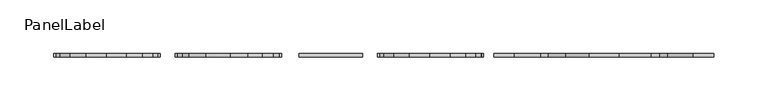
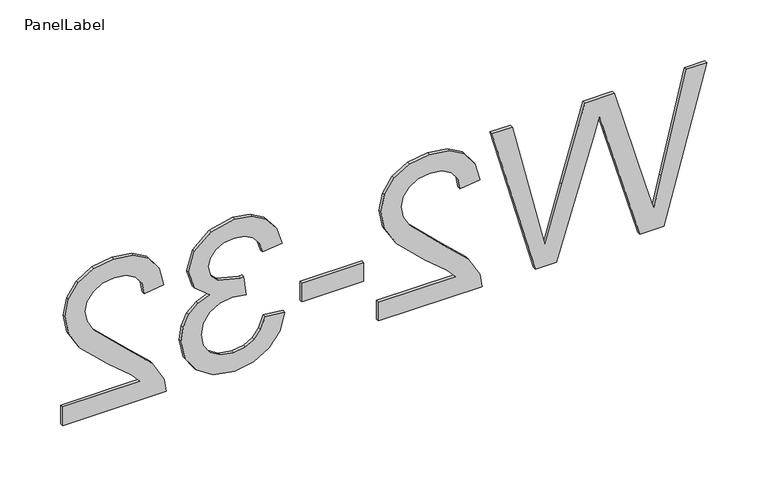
"""IFC4 building model written with IfcOpenShell, lengths in millimetres: fastener geometry, PanelLabel : Miranda."""

from ifc_helpers import new_model, si_unit, frame, origin, place, context, project, spatial, polyline, outline, extrude, source, transform, mapped, element, save


def panellabel_7984cc64(model_context):
    return source(origin(), model_context, "Body", "SweptSolid", [
        extrude(outline(polyline([(1310.9113766, 268.5683654), (1460.9667612, 309.4892308), (1460.9667612, 290.1461538), (1362.3463766, 266.4069231), (1331.9030112, 259.08), (1358.8294535, 251.2401923), (1460.9667612, 221.4928846), (1460.9667612, 193.6139423), (1386.9282035, 171.9995192), (1331.9030112, 155.9169231), (1361.4671458, 148.8098077), (1460.9667612, 124.8507692), (1460.9667612, 105.5076923), (1310.9113766, 146.4651923), (1310.9113766, 166.5043269), (1426.6767612, 202.4795192), (1442.8326266, 207.4984615), (1423.3796458, 213.1401923), (1310.9113766, 245.9281731), (1310.9113766, 268.5683654)])), frame((0.0, 100.80625, 0.0), z_axis=(0.0, 1.0, 0.0), x_axis=(0.0, 0.0, 1.0)), (0.0, 0.0, 1.0), 3.175),
        extrude(outline(polyline([(1329.6682997, -2.3446154), (1310.9113766, -2.3446154), (1310.9113766, 96.1292308), (1323.8433958, 94.1143269), (1343.7543093, 82.7209615), (1365.4969535, 59.2381731), (1396.7462804, 26.8531731), (1407.5168573, 20.7809856), (1417.9943573, 18.7569231), (1427.3865569, 20.6665024), (1435.1943093, 26.3952404), (1440.4559559, 35.2012861), (1442.2098381, 46.3427885), (1440.4971698, 58.0429688), (1435.359165, 67.1329327), (1427.1988045, 72.9990505), (1416.4190689, 75.0276923), (1418.7636843, 93.7846154), (1436.9069775, 89.2373438), (1450.1595497, 79.4055288), (1458.2649583, 64.8020553), (1460.9667612, 45.9398077), (1457.9627227, 26.9401803), (1448.9506073, 12.3641827), (1435.4873862, 3.0910457), (1419.1300304, 0.0), (1401.3439247, 3.33375), (1382.9533477, 14.4157212), (1357.254165, 41.2872115), (1339.211617, 62.865), (1329.6682997, 71.3275962), (1329.6682997, -2.3446154)])), frame((0.0, 100.80625, 0.0), z_axis=(0.0, 1.0, 0.0), x_axis=(0.0, 0.0, 1.0)), (0.0, 0.0, 1.0), 3.175),
        extrude(outline(polyline([(-75.0276923, 103.98125), (-16.4123077, 103.98125), (-16.4123077, 100.80625), (-75.0276923, 100.80625), (-75.0276923, 103.98125)])), frame((0.0, 0.0, 1355.4590689), z_axis=(0.0, 0.0, 1.0), x_axis=(1.0, 0.0, 0.0)), (0.0, 0.0, 1.0), 18.7569231),
        extrude(outline(polyline([(1350.7698381, -91.44), (1353.1144535, -110.1969231), (1341.327266, -114.3961659), (1333.3683958, -120.5462019), (1328.8348622, -128.9492668), (1327.3236843, -139.9075962), (1329.4026987, -152.7663462), (1335.639742, -162.6943269), (1344.9449343, -169.041274), (1356.2283958, -171.1569231), (1366.9394415, -169.0595913), (1375.6264247, -162.7675962), (1381.3826386, -153.2425962), (1383.3013766, -141.44625), (1381.2498381, -128.2944231), (1400.0067612, -130.3825962), (1399.7869535, -133.3866346), (1405.172242, -154.6713462), (1412.0045977, -161.7601442), (1421.7310881, -164.1230769), (1429.8319174, -162.4104087), (1436.4032516, -157.2724038), (1440.7581915, -149.4325962), (1442.2098381, -139.6145192), (1440.7444535, -129.778125), (1436.3482997, -121.7368269), (1429.0213766, -115.8661298), (1418.7636843, -112.5415385), (1421.1082997, -93.7846154), (1437.9510641, -99.3072837), (1450.5258958, -109.1345192), (1458.3565448, -122.5794231), (1460.9667612, -138.9550962), (1455.8195977, -161.5769712), (1441.7519054, -177.403125), (1422.8301266, -182.88), (1405.5385881, -177.6778846), (1393.1194535, -162.2913462), (1388.3752708, -174.0327404), (1380.2973381, -182.7334615), (1369.3252708, -188.11875), (1355.8986843, -189.9138462), (1337.6180112, -186.3236538), (1322.3413766, -175.5530769), (1312.010415, -159.2964663), (1308.5667612, -139.2481731), (1311.5066891, -121.1140385), (1320.3264727, -106.3502885), (1333.8171698, -96.0834375), (1350.7698381, -91.44)])), frame((0.0, 100.80625, 0.0), z_axis=(0.0, 1.0, 0.0), x_axis=(0.0, 0.0, 1.0)), (0.0, 0.0, 1.0), 3.175),
        extrude(outline(polyline([(1329.6682997, -302.4553846), (1310.9113766, -302.4553846), (1310.9113766, -203.9815385), (1323.8433958, -205.9964423), (1343.7543093, -217.3898077), (1365.4969535, -240.8725962), (1396.7462804, -273.2575962), (1407.5168573, -279.3297837), (1417.9943573, -281.3538462), (1427.3865569, -279.4442668), (1435.1943093, -273.7155288), (1440.4559559, -264.9094832), (1442.2098381, -253.7679808), (1440.4971698, -242.0678005), (1435.359165, -232.9778365), (1427.1988045, -227.1117187), (1416.4190689, -225.0830769), (1418.7636843, -206.3261538), (1436.9069775, -210.8734255), (1450.1595497, -220.7052404), (1458.2649583, -235.3087139), (1460.9667612, -254.1709615), (1457.9627227, -273.1705889), (1448.9506073, -287.7465865), (1435.4873862, -297.0197236), (1419.1300304, -300.1107692), (1401.3439247, -296.7770192), (1382.9533477, -285.6950481), (1357.254165, -258.8235577), (1339.211617, -237.2457692), (1329.6682997, -228.7831731), (1329.6682997, -302.4553846)])), frame((0.0, 100.80625, 0.0), z_axis=(0.0, 1.0, 0.0), x_axis=(0.0, 0.0, 1.0)), (0.0, 0.0, 1.0), 3.175),
    ])


if __name__ == "__main__":
    model = new_model("IFC4")
    model_context = context("Model", 3, world=origin())
    ifc_project = project(units=[si_unit("LENGTHUNIT", "METRE", prefix="MILLI")], contexts=[model_context])
    site = spatial("IfcSite", under=ifc_project)
    building = spatial("IfcBuilding", under=site)
    placement = place(None, origin())
    panellabel_shape = panellabel_7984cc64(model_context)
    element("IfcFastener", 1, ObjectType="PanelLabel : Miranda", at=placement, inside=building, context=model_context, shape_type="MappedRepresentation", body=[
        mapped(panellabel_shape, transform((0.0, 0.0, 0.0), x_axis=(1.0, 0.0, 0.0), y_axis=(0.0, 1.0, 0.0), z_axis=(0.0, 0.0, 1.0))),
    ])
    save(model, "model.ifc")
